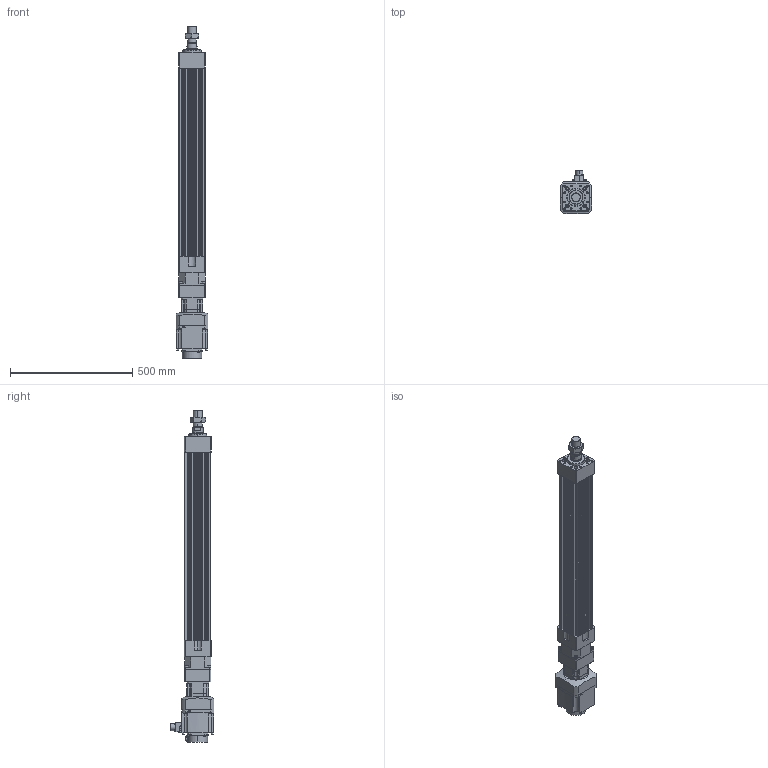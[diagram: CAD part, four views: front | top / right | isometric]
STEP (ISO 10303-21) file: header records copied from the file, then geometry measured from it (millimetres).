
FILE_DESCRIPTION (( 'STEP AP203' ), '1' );
FILE_NAME ('HES110NS(HS)-S600-W010G00-M.STEP', '2023-01-27T05:09:37', ( 'tms' ), ( '' ), 'SwSTEP 2.0', 'SolidWorks 2013', '' );
FILE_SCHEMA (( 'CONFIG_CONTROL_DESIGN' ));
Length unit declared in the file: millimetre
Products named in the file (8): HES110NS(HS)-S600-W010G00-M; HG-SR102; AB090-003[HG-SR102B]; M36X1.5P; P0401301004; HES110-S600-G090; HES110 ROD M ST600; AB0901
Assembly tree (7 placements, depth 3):
  HES110NS(HS)-S600-W010G00-M
    HES110-S600-G090
    HES110 ROD M ST600
    M36X1.5P
    AB090-003[HG-SR102B]
      AB0901
      P0401301004
    HG-SR102
Bounding box: 130 x 177.49 x 1358.5 mm (x, y, z)
Volume: 8651200.4 mm3; surface area: 1206396.2 mm2
Topology: 4 solids, 15 shells, 1197 faces, 3018 edges, 1947 vertices
Faces by surface type: plane 550, cylinder 535, cone 100, bspline 8, torus 4
Entity records: 37761 total; most frequent: CARTESIAN_POINT 7330, DIRECTION 6511, ORIENTED_EDGE 5944, EDGE_CURVE 2982, AXIS2_PLACEMENT_3D 2399, VERTEX_POINT 1947, LINE 1713, VECTOR 1713
